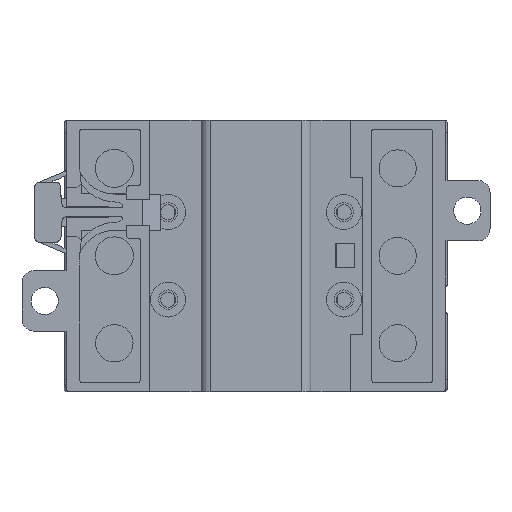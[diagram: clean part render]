
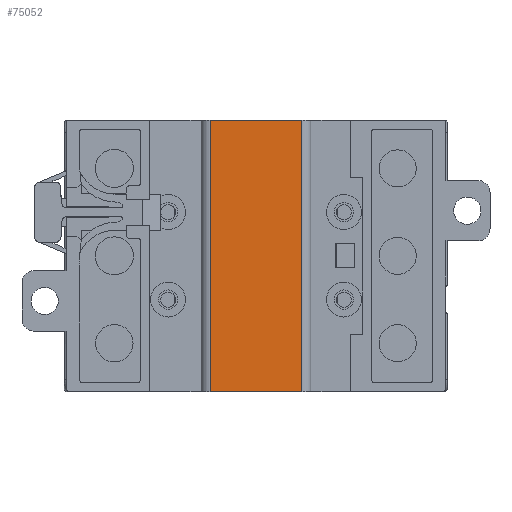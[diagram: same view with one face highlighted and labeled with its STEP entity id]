
A CAD part, front view. The second image highlights one B-rep face of the part: STEP entity #75052.
In plain terms, the highlighted planar face has unit normal (0, -1, 0).
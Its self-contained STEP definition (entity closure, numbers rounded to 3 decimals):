
#11099=DIRECTION('',(-1.,0.,0.));
#11100=VECTOR('',#11099,15.2);
#11101=CARTESIAN_POINT('',(114.987,98.003,84.341));
#11102=LINE('',#11101,#11100);
#11253=DIRECTION('',(1.,0.,0.));
#11254=VECTOR('',#11253,15.2);
#11255=CARTESIAN_POINT('',(99.787,98.003,39.341));
#11256=LINE('',#11255,#11254);
#22396=DIRECTION('',(0.,0.,-1.));
#22397=VECTOR('',#22396,45.);
#22398=CARTESIAN_POINT('',(99.787,98.003,84.341));
#22399=LINE('',#22398,#22397);
#22400=DIRECTION('',(0.,0.,1.));
#22401=VECTOR('',#22400,45.);
#22402=CARTESIAN_POINT('',(114.987,98.003,39.341));
#22403=LINE('',#22402,#22401);
#36623=CARTESIAN_POINT('',(114.987,98.003,84.341));
#36624=VERTEX_POINT('',#36623);
#36625=CARTESIAN_POINT('',(99.787,98.003,84.341));
#36626=VERTEX_POINT('',#36625);
#36697=CARTESIAN_POINT('',(99.787,98.003,39.341));
#36698=VERTEX_POINT('',#36697);
#36699=CARTESIAN_POINT('',(114.987,98.003,39.341));
#36700=VERTEX_POINT('',#36699);
#75040=CARTESIAN_POINT('',(107.387,98.003,61.841));
#75041=DIRECTION('',(0.,1.,0.));
#75042=DIRECTION('',(1.,0.,0.));
#75043=AXIS2_PLACEMENT_3D('',#75040,#75041,#75042);
#75044=PLANE('',#75043);
#75045=ORIENTED_EDGE('',*,*,#59980,.F.);
#75046=ORIENTED_EDGE('',*,*,#75035,.F.);
#75047=ORIENTED_EDGE('',*,*,#59830,.F.);
#75049=ORIENTED_EDGE('',*,*,#75048,.F.);
#75050=EDGE_LOOP('',(#75045,#75046,#75047,#75049));
#75051=FACE_OUTER_BOUND('',#75050,.F.);
#75052=ADVANCED_FACE('',(#75051),#75044,.F.);
#59830=EDGE_CURVE('',#36624,#36626,#11102,.T.);
#59980=EDGE_CURVE('',#36698,#36700,#11256,.T.);
#75035=EDGE_CURVE('',#36626,#36698,#22399,.T.);
#75048=EDGE_CURVE('',#36700,#36624,#22403,.T.);
